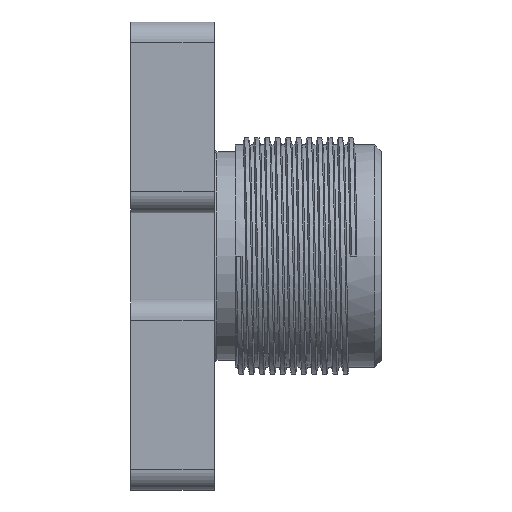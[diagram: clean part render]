
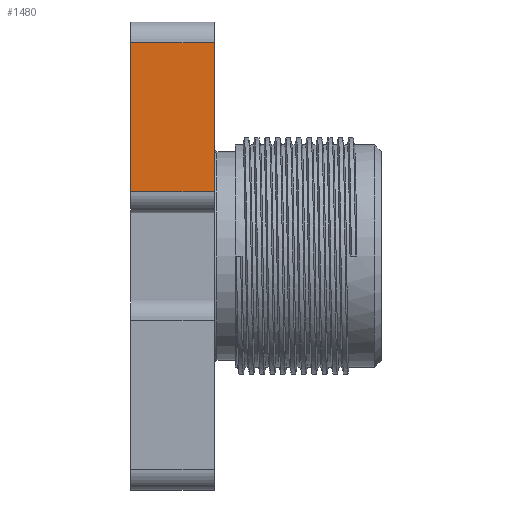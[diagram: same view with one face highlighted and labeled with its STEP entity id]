
A CAD part, left-side view. The second image highlights one B-rep face of the part: STEP entity #1480.
In plain terms, the highlighted planar face has unit normal (-1, 0, 0).
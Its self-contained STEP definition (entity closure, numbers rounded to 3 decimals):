
#193 = FACE_OUTER_BOUND ( 'NONE', #1568, .T. ) ;
#749 = EDGE_CURVE ( 'NONE', #1923, #1202, #1153, .T. ) ;
#819 = VERTEX_POINT ( 'NONE', #2157 ) ;
#1121 = VECTOR ( 'NONE', #2568, 1000. ) ;
#1153 = LINE ( 'NONE', #2584, #1121 ) ;
#1202 = VERTEX_POINT ( 'NONE', #4107 ) ;
#1480 = ADVANCED_FACE ( 'NONE', ( #193 ), #4396, .F. ) ;
#1568 = EDGE_LOOP ( 'NONE', ( #4321, #2879, #4359, #4367 ) ) ;
#1580 = DIRECTION ( 'NONE',  ( 0., 0., -1. ) ) ;
#1602 = DIRECTION ( 'NONE',  ( 0., 1., 0. ) ) ;
#1893 = VECTOR ( 'NONE', #2122, 1000. ) ;
#1923 = VERTEX_POINT ( 'NONE', #3970 ) ;
#2052 = LINE ( 'NONE', #3424, #1893 ) ;
#2122 = DIRECTION ( 'NONE',  ( 0., 1., 0. ) ) ;
#2157 = CARTESIAN_POINT ( 'NONE',  ( -26., 6., 15.3 ) ) ;
#2212 = EDGE_CURVE ( 'NONE', #1923, #3694, #2052, .T. ) ;
#2328 = CARTESIAN_POINT ( 'NONE',  ( -26., 0., 15.3 ) ) ;
#2568 = DIRECTION ( 'NONE',  ( 0., 0., 1. ) ) ;
#2584 = CARTESIAN_POINT ( 'NONE',  ( -26., 0., 0. ) ) ;
#2664 = CARTESIAN_POINT ( 'NONE',  ( -26., 6., 4.6 ) ) ;
#2879 = ORIENTED_EDGE ( 'NONE', *, *, #749, .T. ) ;
#2915 = DIRECTION ( 'NONE',  ( 1., 0., 0. ) ) ;
#2931 = LINE ( 'NONE', #3619, #2973 ) ;
#2941 = EDGE_CURVE ( 'NONE', #3694, #819, #2931, .T. ) ;
#2973 = VECTOR ( 'NONE', #3309, 1000. ) ;
#3309 = DIRECTION ( 'NONE',  ( 0., 0., 1. ) ) ;
#3424 = CARTESIAN_POINT ( 'NONE',  ( -26., 3., 4.6 ) ) ;
#3607 = LINE ( 'NONE', #3951, #4140 ) ;
#3619 = CARTESIAN_POINT ( 'NONE',  ( -26., 6., 0. ) ) ;
#3626 = EDGE_CURVE ( 'NONE', #1202, #819, #3607, .T. ) ;
#3694 = VERTEX_POINT ( 'NONE', #2664 ) ;
#3951 = CARTESIAN_POINT ( 'NONE',  ( -26., 3., 15.3 ) ) ;
#3959 = AXIS2_PLACEMENT_3D ( 'NONE', #2328, #2915, #1580 ) ;
#3970 = CARTESIAN_POINT ( 'NONE',  ( -26., 0., 4.6 ) ) ;
#4107 = CARTESIAN_POINT ( 'NONE',  ( -26., 0., 15.3 ) ) ;
#4140 = VECTOR ( 'NONE', #1602, 1000. ) ;
#4321 = ORIENTED_EDGE ( 'NONE', *, *, #2212, .F. ) ;
#4359 = ORIENTED_EDGE ( 'NONE', *, *, #3626, .T. ) ;
#4367 = ORIENTED_EDGE ( 'NONE', *, *, #2941, .F. ) ;
#4396 = PLANE ( 'NONE',  #3959 ) ;
